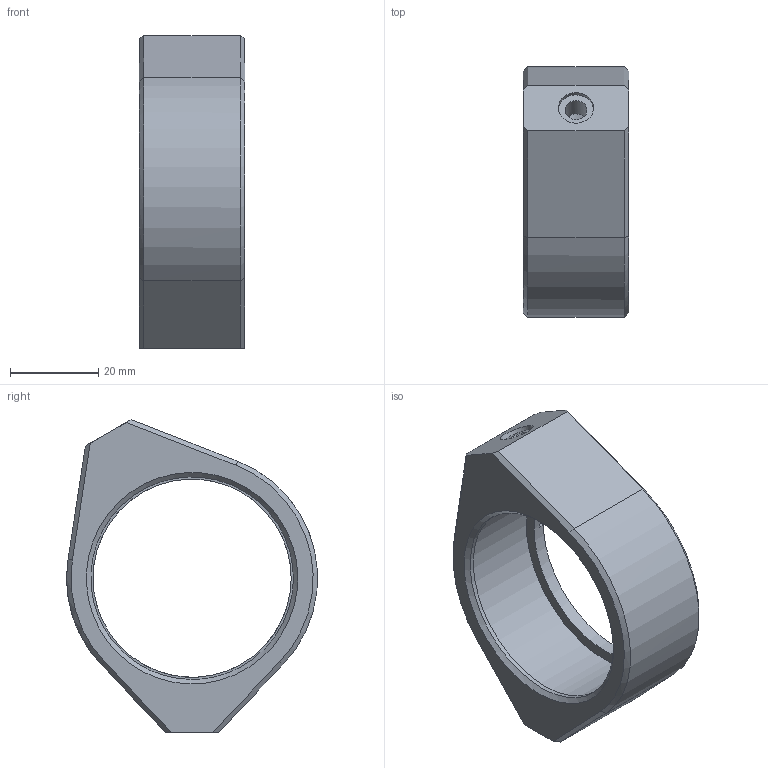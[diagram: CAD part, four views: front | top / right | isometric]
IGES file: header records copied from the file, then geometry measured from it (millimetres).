
Global section: file name: LHF-50AS-N; native system: Autodesk Inventor 2014; preprocessor: unknown; author: e.nonaka; date: 20140807.173420; units: millimetre
Bounding box: 24 x 56.95 x 71 mm (x, y, z)
Volume: 24758.6 mm3; surface area: 11793.9 mm2
Topology: 1 solids, 1 shells, 48 faces, 119 edges, 77 vertices
Faces by surface type: bspline 48
